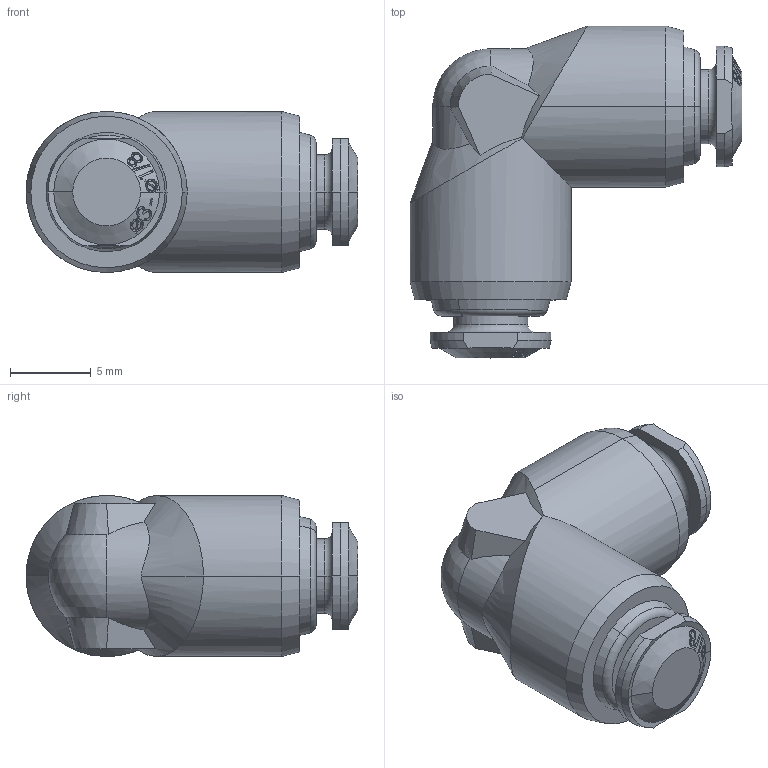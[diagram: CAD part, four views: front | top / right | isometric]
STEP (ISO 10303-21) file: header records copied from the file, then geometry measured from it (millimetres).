
FILE_DESCRIPTION (( 'STEP AP203' ), '1' );
FILE_NAME ('8513000001A.step', '2012-10-31T14:29:23', ( '' ), ( '' ), 'SwSTEP 2.0', 'SolidWorks 2012', '' );
FILE_SCHEMA (( 'CONFIG_CONTROL_DESIGN' ));
Length unit declared in the file: millimetre
Products named in the file (1): 8513000001A
Bounding box: 20.6 x 20.6 x 10 mm (x, y, z)
Volume: 1858.9 mm3; surface area: 1112.9 mm2
Topology: 1 solids, 1 shells, 281 faces, 745 edges, 498 vertices
Faces by surface type: bspline 180, cone 52, cylinder 20, plane 20, torus 8, sphere 1
Entity records: 17344 total; most frequent: CARTESIAN_POINT 11942, ORIENTED_EDGE 1490, EDGE_CURVE 745, B_SPLINE_CURVE_WITH_KNOTS 602, VERTEX_POINT 498, DIRECTION 424, EDGE_LOOP 313, ADVANCED_FACE 281
